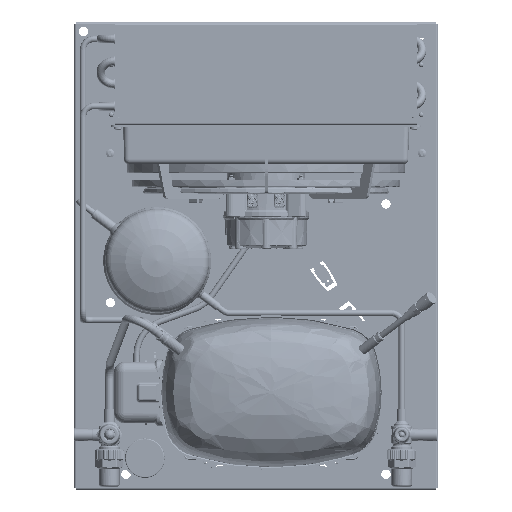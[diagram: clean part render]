
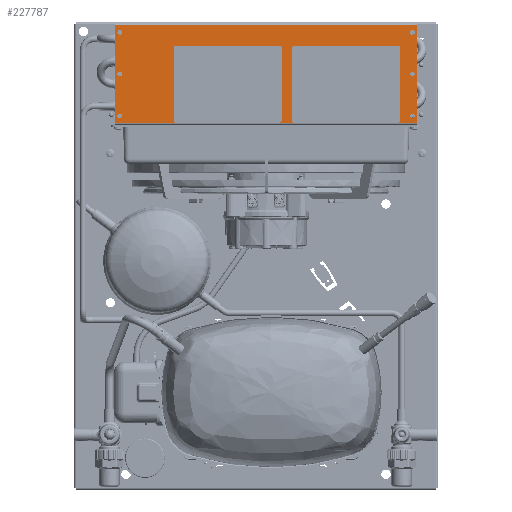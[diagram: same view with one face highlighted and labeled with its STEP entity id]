
A CAD part, top view. The second image highlights one B-rep face of the part: STEP entity #227787.
In plain terms, the highlighted planar face has unit normal (0, 0, 1).
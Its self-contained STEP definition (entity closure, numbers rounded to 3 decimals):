
#73239=CIRCLE('',#240508,2.25);
#73240=CIRCLE('',#240509,2.25);
#73241=CIRCLE('',#240510,2.25);
#73242=CIRCLE('',#240511,2.25);
#73243=CIRCLE('',#240512,2.25);
#73244=CIRCLE('',#240513,2.25);
#91864=ORIENTED_EDGE('',*,*,#137607,.F.);
#91865=ORIENTED_EDGE('',*,*,#137608,.F.);
#91866=ORIENTED_EDGE('',*,*,#137609,.F.);
#91867=ORIENTED_EDGE('',*,*,#137610,.F.);
#91868=ORIENTED_EDGE('',*,*,#137611,.F.);
#91869=ORIENTED_EDGE('',*,*,#137612,.F.);
#91870=ORIENTED_EDGE('',*,*,#137599,.T.);
#91871=ORIENTED_EDGE('',*,*,#137604,.F.);
#91872=ORIENTED_EDGE('',*,*,#137576,.F.);
#91873=ORIENTED_EDGE('',*,*,#137606,.T.);
#137576=EDGE_CURVE('',#161714,#161715,#177366,.T.);
#137599=EDGE_CURVE('',#161732,#161730,#177379,.T.);
#137604=EDGE_CURVE('',#161715,#161730,#177383,.T.);
#137606=EDGE_CURVE('',#161714,#161732,#177385,.T.);
#137607=EDGE_CURVE('',#161734,#161734,#73239,.T.);
#137608=EDGE_CURVE('',#161735,#161735,#73240,.T.);
#137609=EDGE_CURVE('',#161736,#161736,#73241,.T.);
#137610=EDGE_CURVE('',#161737,#161737,#73242,.T.);
#137611=EDGE_CURVE('',#161738,#161738,#73243,.T.);
#137612=EDGE_CURVE('',#161739,#161739,#73244,.T.);
#161714=VERTEX_POINT('',#378674);
#161715=VERTEX_POINT('',#378676);
#161730=VERTEX_POINT('',#378720);
#161732=VERTEX_POINT('',#378723);
#161734=VERTEX_POINT('',#378738);
#161735=VERTEX_POINT('',#378740);
#161736=VERTEX_POINT('',#378742);
#161737=VERTEX_POINT('',#378744);
#161738=VERTEX_POINT('',#378746);
#161739=VERTEX_POINT('',#378748);
#177366=LINE('',#378675,#186444);
#177379=LINE('',#378722,#186457);
#177383=LINE('',#378731,#186461);
#177385=LINE('',#378735,#186463);
#186444=VECTOR('',#263236,1000.);
#186457=VECTOR('',#263283,1000.);
#186461=VECTOR('',#263293,1000.);
#186463=VECTOR('',#263299,1000.);
#196996=EDGE_LOOP('',(#91864));
#196997=EDGE_LOOP('',(#91865));
#196998=EDGE_LOOP('',(#91866));
#196999=EDGE_LOOP('',(#91867));
#197000=EDGE_LOOP('',(#91868));
#197001=EDGE_LOOP('',(#91869));
#197002=EDGE_LOOP('',(#91870,#91871,#91872,#91873));
#210465=FACE_BOUND('',#196996,.T.);
#210466=FACE_BOUND('',#196997,.T.);
#210467=FACE_BOUND('',#196998,.T.);
#210468=FACE_BOUND('',#196999,.T.);
#210469=FACE_BOUND('',#197000,.T.);
#210470=FACE_BOUND('',#197001,.T.);
#210471=FACE_BOUND('',#197002,.T.);
#220717=PLANE('',#240507);
#227787=ADVANCED_FACE('',(#210465,#210466,#210467,#210468,#210469,#210470,
#210471),#220717,.F.);
#240507=AXIS2_PLACEMENT_3D('',#378736,#263300,#263301);
#240508=AXIS2_PLACEMENT_3D('',#378737,#263302,#263303);
#240509=AXIS2_PLACEMENT_3D('',#378739,#263304,#263305);
#240510=AXIS2_PLACEMENT_3D('',#378741,#263306,#263307);
#240511=AXIS2_PLACEMENT_3D('',#378743,#263308,#263309);
#240512=AXIS2_PLACEMENT_3D('',#378745,#263310,#263311);
#240513=AXIS2_PLACEMENT_3D('',#378747,#263312,#263313);
#263236=DIRECTION('',(0.,1.,0.));
#263283=DIRECTION('',(0.,1.,0.));
#263293=DIRECTION('',(1.,0.,0.));
#263299=DIRECTION('',(1.,0.,0.));
#263300=DIRECTION('',(0.,0.,-1.));
#263301=DIRECTION('',(-1.,0.,0.));
#263302=DIRECTION('',(0.,0.,1.));
#263303=DIRECTION('',(1.,0.,0.));
#263304=DIRECTION('',(0.,0.,1.));
#263305=DIRECTION('',(1.,0.,0.));
#263306=DIRECTION('',(0.,0.,1.));
#263307=DIRECTION('',(1.,0.,0.));
#263308=DIRECTION('',(0.,0.,1.));
#263309=DIRECTION('',(1.,0.,0.));
#263310=DIRECTION('',(0.,0.,1.));
#263311=DIRECTION('',(1.,0.,0.));
#263312=DIRECTION('',(0.,0.,1.));
#263313=DIRECTION('',(1.,0.,0.));
#378674=CARTESIAN_POINT('',(-145.,-46.85,0.));
#378675=CARTESIAN_POINT('',(-145.,-48.65,0.));
#378676=CARTESIAN_POINT('',(-145.,46.85,0.));
#378720=CARTESIAN_POINT('',(145.,46.85,0.));
#378722=CARTESIAN_POINT('',(145.,-48.65,0.));
#378723=CARTESIAN_POINT('',(145.,-46.85,0.));
#378731=CARTESIAN_POINT('',(-145.,46.85,0.));
#378735=CARTESIAN_POINT('',(-145.,-46.85,0.));
#378736=CARTESIAN_POINT('',(-145.,-48.65,0.));
#378737=CARTESIAN_POINT('',(140.75,0.15,0.));
#378738=CARTESIAN_POINT('',(143.,0.15,0.));
#378739=CARTESIAN_POINT('',(-140.75,0.15,0.));
#378740=CARTESIAN_POINT('',(-138.5,0.15,0.));
#378741=CARTESIAN_POINT('',(-140.75,40.15,0.));
#378742=CARTESIAN_POINT('',(-138.5,40.15,0.));
#378743=CARTESIAN_POINT('',(140.75,-40.15,0.));
#378744=CARTESIAN_POINT('',(143.,-40.15,0.));
#378745=CARTESIAN_POINT('',(140.75,40.15,0.));
#378746=CARTESIAN_POINT('',(143.,40.15,0.));
#378747=CARTESIAN_POINT('',(-140.75,-40.15,0.));
#378748=CARTESIAN_POINT('',(-138.5,-40.15,0.));
